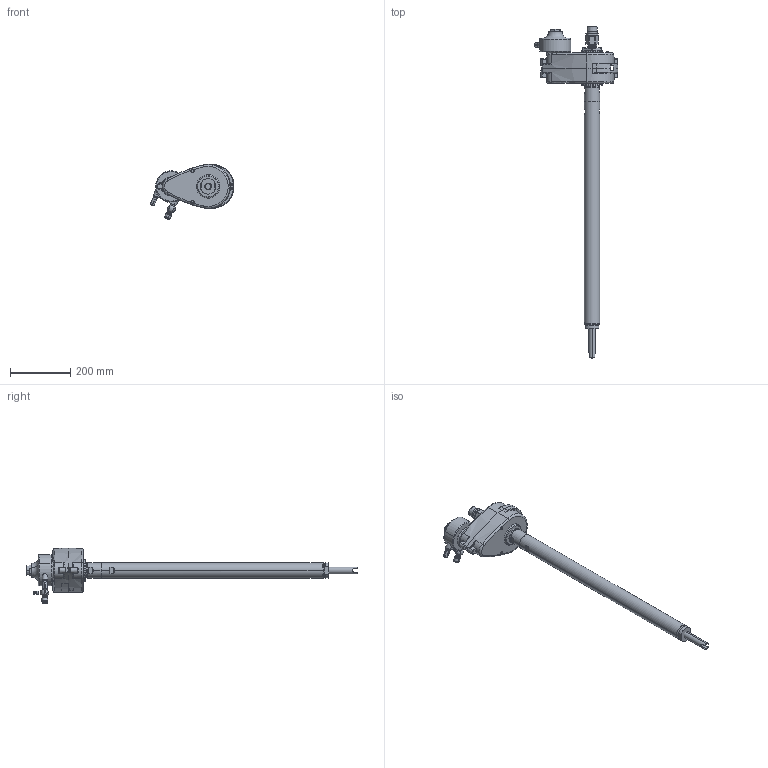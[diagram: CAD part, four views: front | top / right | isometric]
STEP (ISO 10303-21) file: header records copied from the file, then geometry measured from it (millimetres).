
FILE_DESCRIPTION((''),'2;1');
FILE_NAME('240209-EN-Y_PRT','2022-02-14T11:27:41',('qtmwp1'),(''),'CREO PARAMETRIC BY PTC INC, 2021072','CREO PARAMETRIC BY PTC INC, 2021072','');
FILE_SCHEMA(('CONFIG_CONTROL_DESIGN'));
Length unit declared in the file: inch
Products named in the file (1): 240209-EN-Y_PRT
Bounding box: 277.5 x 1098.55 x 182.4 mm (x, y, z)
Surface area: 479153.8 mm2 (no closed solid volume)
Topology: 0 solids, 66 shells, 356 faces, 1117 edges, 789 vertices
Faces by surface type: plane 128, cylinder 121, cone 54, torus 44, bspline 7, sphere 2
Entity records: 14119 total; most frequent: CARTESIAN_POINT 4669, DIRECTION 2018, ORIENTED_EDGE 1694, EDGE_CURVE 1117, AXIS2_PLACEMENT_3D 792, VERTEX_POINT 789, CIRCLE 443, VECTOR 434
